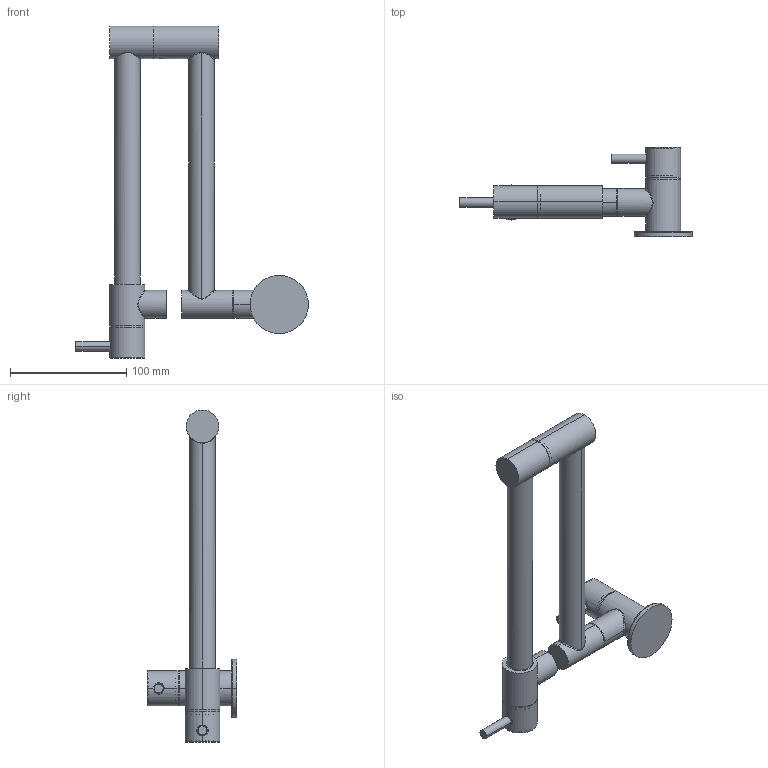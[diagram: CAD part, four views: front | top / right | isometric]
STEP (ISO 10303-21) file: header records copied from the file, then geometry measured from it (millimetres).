
FILE_DESCRIPTION (( 'STEP AP203' ), '1' );
FILE_NAME ('ABA_X87K - S.STEP', '2026-04-08T07:35:46', ( '' ), ( '' ), 'SwSTEP 2.0', 'SolidWorks 2018', '' );
FILE_SCHEMA (( 'CONFIG_CONTROL_DESIGN' ));
Products named in the file (1): ABA_X87K  - S
Bounding box: 199.8 x 77 x 285 mm (x, y, z)
Volume: 468296.3 mm3; surface area: 152932.9 mm2
Topology: 23 solids, 24 shells, 896 faces, 2173 edges, 1376 vertices
Faces by surface type: cylinder 352, plane 265, cone 123, bspline 106, torus 50
Entity records: 50008 total; most frequent: CARTESIAN_POINT 29913, ORIENTED_EDGE 4342, DIRECTION 3867, EDGE_CURVE 2171, AXIS2_PLACEMENT_3D 1552, VERTEX_POINT 1376, EDGE_LOOP 983, FACE_OUTER_BOUND 896
